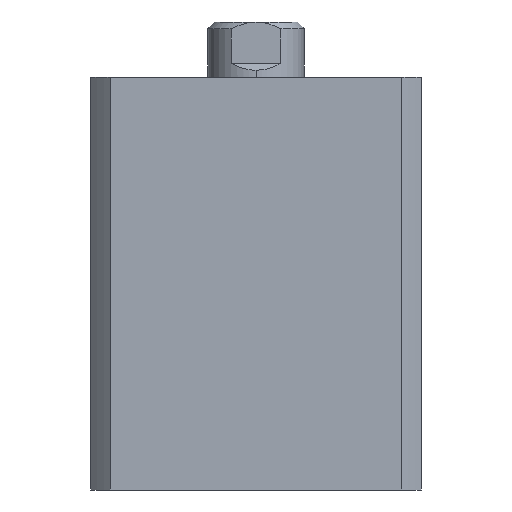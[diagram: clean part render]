
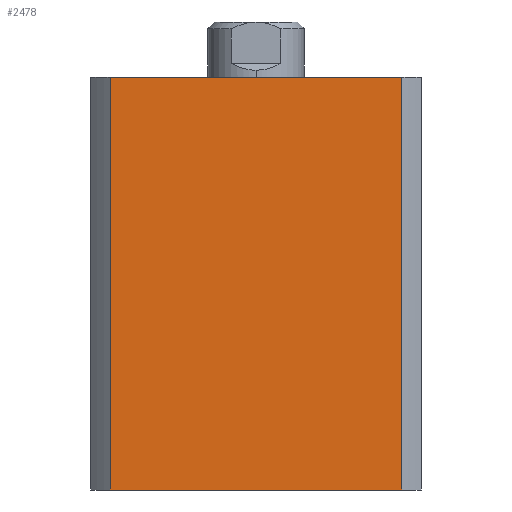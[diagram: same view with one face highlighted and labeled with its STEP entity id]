
A CAD part, left-side view. The second image highlights one B-rep face of the part: STEP entity #2478.
In plain terms, the highlighted planar face has unit normal (-1, 0, 0).
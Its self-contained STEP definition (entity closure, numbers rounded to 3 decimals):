
#200 = VERTEX_POINT ( 'NONE', #4054 ) ;
#217 = VERTEX_POINT ( 'NONE', #4037 ) ;
#221 = VERTEX_POINT ( 'NONE', #4033 ) ;
#338 = EDGE_LOOP ( 'NONE', ( #435, #3682, #3668, #3685 ) ) ;
#435 = ORIENTED_EDGE ( 'NONE', *, *, #3828, .T. ) ;
#540 = VERTEX_POINT ( 'NONE', #3888 ) ;
#716 = LINE ( 'NONE', #2969, #718 ) ;
#718 = VECTOR ( 'NONE', #2970, 1000. ) ;
#730 = LINE ( 'NONE', #1910, #755 ) ;
#751 = LINE ( 'NONE', #1904, #753 ) ;
#753 = VECTOR ( 'NONE', #1905, 1000. ) ;
#754 = LINE ( 'NONE', #1916, #757 ) ;
#755 = VECTOR ( 'NONE', #1915, 1000. ) ;
#757 = VECTOR ( 'NONE', #1918, 1000. ) ;
#1408 = FACE_OUTER_BOUND ( 'NONE', #338, .T. ) ;
#1904 = CARTESIAN_POINT ( 'NONE',  ( -24., 0., 0. ) ) ;
#1905 = DIRECTION ( 'NONE',  ( 0., -1., 0. ) ) ;
#1910 = CARTESIAN_POINT ( 'NONE',  ( -24., -21.166, 60. ) ) ;
#1915 = DIRECTION ( 'NONE',  ( 0., 0., -1. ) ) ;
#1916 = CARTESIAN_POINT ( 'NONE',  ( -24., 21.166, 60. ) ) ;
#1918 = DIRECTION ( 'NONE',  ( 0., 0., -1. ) ) ;
#2478 = ADVANCED_FACE ( 'NONE', ( #1408 ), #3294, .F. ) ;
#2969 = CARTESIAN_POINT ( 'NONE',  ( -24., 0., 60. ) ) ;
#2970 = DIRECTION ( 'NONE',  ( 0., -1., 0. ) ) ;
#3289 = CARTESIAN_POINT ( 'NONE',  ( -24., 0., 60. ) ) ;
#3294 = PLANE ( 'NONE',  #4187 ) ;
#3297 = DIRECTION ( 'NONE',  ( 1., 0., 0. ) ) ;
#3298 = DIRECTION ( 'NONE',  ( 0., 0., -1. ) ) ;
#3668 = ORIENTED_EDGE ( 'NONE', *, *, #3799, .F. ) ;
#3682 = ORIENTED_EDGE ( 'NONE', *, *, #3829, .F. ) ;
#3685 = ORIENTED_EDGE ( 'NONE', *, *, #3830, .T. ) ;
#3799 = EDGE_CURVE ( 'NONE', #540, #221, #716, .T. ) ;
#3828 = EDGE_CURVE ( 'NONE', #217, #200, #751, .T. ) ;
#3829 = EDGE_CURVE ( 'NONE', #221, #200, #730, .T. ) ;
#3830 = EDGE_CURVE ( 'NONE', #540, #217, #754, .T. ) ;
#3888 = CARTESIAN_POINT ( 'NONE',  ( -24., 21.166, 60. ) ) ;
#4033 = CARTESIAN_POINT ( 'NONE',  ( -24., -21.166, 60. ) ) ;
#4037 = CARTESIAN_POINT ( 'NONE',  ( -24., 21.166, 0. ) ) ;
#4054 = CARTESIAN_POINT ( 'NONE',  ( -24., -21.166, 0. ) ) ;
#4187 = AXIS2_PLACEMENT_3D ( 'NONE', #3289, #3297, #3298 ) ;
